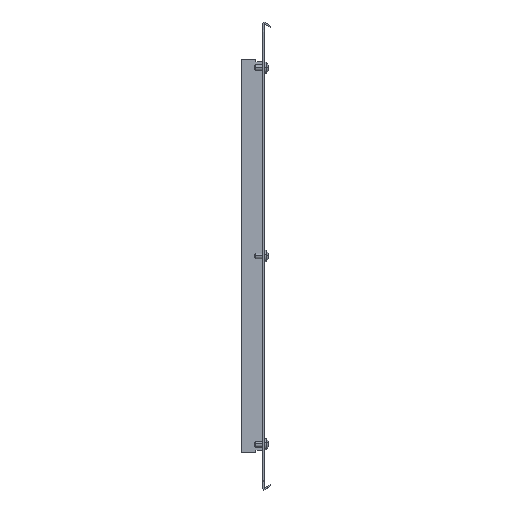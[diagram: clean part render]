
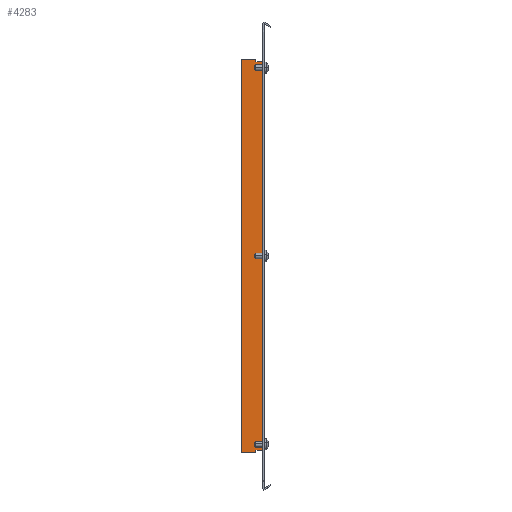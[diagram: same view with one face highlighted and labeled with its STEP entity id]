
A CAD part, left-side view. The second image highlights one B-rep face of the part: STEP entity #4283.
In plain terms, the highlighted planar face has unit normal (-1, 0, 0).
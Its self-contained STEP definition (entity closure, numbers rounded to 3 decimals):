
#107 = EDGE_LOOP ( 'NONE', ( #6543, #5303, #3175, #468, #5749, #1530, #10359, #10068, #7087, #811, #3003, #8647, #6614, #6595 ) ) ;
#241 = EDGE_CURVE ( 'NONE', #9529, #6462, #4749, .T. ) ;
#288 = LINE ( 'NONE', #10373, #8266 ) ;
#297 = EDGE_CURVE ( 'NONE', #11364, #2931, #288, .T. ) ;
#302 = CARTESIAN_POINT ( 'NONE',  ( 1.5, 5.75, -206.25 ) ) ;
#317 = CARTESIAN_POINT ( 'NONE',  ( 1.5, -1.5, 206.25 ) ) ;
#336 = CARTESIAN_POINT ( 'NONE',  ( 1.5, 5.75, -206.75 ) ) ;
#468 = ORIENTED_EDGE ( 'NONE', *, *, #8653, .F. ) ;
#794 = DIRECTION ( 'NONE',  ( 0., -1., 0. ) ) ;
#811 = ORIENTED_EDGE ( 'NONE', *, *, #1736, .F. ) ;
#847 = CARTESIAN_POINT ( 'NONE',  ( 1.5, -0.5, 206.25 ) ) ;
#1014 = VERTEX_POINT ( 'NONE', #317 ) ;
#1016 = CARTESIAN_POINT ( 'NONE',  ( 1.5, 5.75, 0. ) ) ;
#1060 = DIRECTION ( 'NONE',  ( 0., -1., 0. ) ) ;
#1103 = CARTESIAN_POINT ( 'NONE',  ( 1.5, 0., 0. ) ) ;
#1104 = VECTOR ( 'NONE', #5202, 1000. ) ;
#1180 = LINE ( 'NONE', #6752, #8379 ) ;
#1188 = VECTOR ( 'NONE', #4586, 1000. ) ;
#1530 = ORIENTED_EDGE ( 'NONE', *, *, #11203, .F. ) ;
#1535 = VECTOR ( 'NONE', #794, 1000. ) ;
#1583 = CARTESIAN_POINT ( 'NONE',  ( 1.5, -1.5, 0. ) ) ;
#1702 = DIRECTION ( 'NONE',  ( 0., 0., -1. ) ) ;
#1736 = EDGE_CURVE ( 'NONE', #9529, #4773, #4070, .T. ) ;
#1887 = DIRECTION ( 'NONE',  ( -1., 0., 0. ) ) ;
#1957 = LINE ( 'NONE', #4804, #5250 ) ;
#2006 = VECTOR ( 'NONE', #8854, 1000. ) ;
#2075 = DIRECTION ( 'NONE',  ( 0., 0., -1. ) ) ;
#2106 = DIRECTION ( 'NONE',  ( 0., 1., 0. ) ) ;
#2195 = VECTOR ( 'NONE', #2075, 1000. ) ;
#2501 = CARTESIAN_POINT ( 'NONE',  ( 1.5, 0., 209.25 ) ) ;
#2505 = LINE ( 'NONE', #11651, #5628 ) ;
#2587 = LINE ( 'NONE', #9823, #7887 ) ;
#2887 = FACE_OUTER_BOUND ( 'NONE', #107, .T. ) ;
#2922 = EDGE_CURVE ( 'NONE', #1014, #5862, #4597, .T. ) ;
#2931 = VERTEX_POINT ( 'NONE', #7948 ) ;
#3003 = ORIENTED_EDGE ( 'NONE', *, *, #241, .T. ) ;
#3175 = ORIENTED_EDGE ( 'NONE', *, *, #2922, .F. ) ;
#3342 = CARTESIAN_POINT ( 'NONE',  ( 1.5, 0., 206.25 ) ) ;
#3778 = CARTESIAN_POINT ( 'NONE',  ( 1.5, 0., -209.25 ) ) ;
#3886 = EDGE_CURVE ( 'NONE', #5456, #7497, #1957, .T. ) ;
#3910 = DIRECTION ( 'NONE',  ( 0., 0., 1. ) ) ;
#4070 = LINE ( 'NONE', #8711, #7278 ) ;
#4111 = AXIS2_PLACEMENT_3D ( 'NONE', #1103, #1887, #4678 ) ;
#4186 = LINE ( 'NONE', #9717, #4523 ) ;
#4283 = ADVANCED_FACE ( 'NONE', ( #2887 ), #4616, .T. ) ;
#4523 = VECTOR ( 'NONE', #6860, 1000. ) ;
#4586 = DIRECTION ( 'NONE',  ( 0., 0., -1. ) ) ;
#4597 = LINE ( 'NONE', #1583, #1104 ) ;
#4616 = PLANE ( 'NONE',  #4111 ) ;
#4678 = DIRECTION ( 'NONE',  ( 0., 0., 1. ) ) ;
#4749 = LINE ( 'NONE', #8539, #2195 ) ;
#4773 = VERTEX_POINT ( 'NONE', #7072 ) ;
#4804 = CARTESIAN_POINT ( 'NONE',  ( 1.5, -1.5, 206.25 ) ) ;
#4839 = CARTESIAN_POINT ( 'NONE',  ( 1.5, 21.5, -209.25 ) ) ;
#4969 = EDGE_CURVE ( 'NONE', #4773, #10565, #4186, .T. ) ;
#5202 = DIRECTION ( 'NONE',  ( 0., 0., -1. ) ) ;
#5250 = VECTOR ( 'NONE', #1060, 1000. ) ;
#5303 = ORIENTED_EDGE ( 'NONE', *, *, #5986, .T. ) ;
#5456 = VERTEX_POINT ( 'NONE', #9517 ) ;
#5628 = VECTOR ( 'NONE', #9856, 1000. ) ;
#5749 = ORIENTED_EDGE ( 'NONE', *, *, #3886, .F. ) ;
#5862 = VERTEX_POINT ( 'NONE', #8678 ) ;
#5906 = VECTOR ( 'NONE', #9685, 1000. ) ;
#5917 = VERTEX_POINT ( 'NONE', #8915 ) ;
#5986 = EDGE_CURVE ( 'NONE', #5917, #5862, #2505, .T. ) ;
#6072 = VERTEX_POINT ( 'NONE', #336 ) ;
#6122 = LINE ( 'NONE', #2501, #5906 ) ;
#6462 = VERTEX_POINT ( 'NONE', #4839 ) ;
#6482 = EDGE_CURVE ( 'NONE', #7626, #6462, #8460, .T. ) ;
#6543 = ORIENTED_EDGE ( 'NONE', *, *, #10434, .F. ) ;
#6595 = ORIENTED_EDGE ( 'NONE', *, *, #11350, .T. ) ;
#6614 = ORIENTED_EDGE ( 'NONE', *, *, #9947, .F. ) ;
#6744 = DIRECTION ( 'NONE',  ( 0., 0., 1. ) ) ;
#6752 = CARTESIAN_POINT ( 'NONE',  ( 1.5, 21.5, -206.25 ) ) ;
#6860 = DIRECTION ( 'NONE',  ( 0., 0., 1. ) ) ;
#7072 = CARTESIAN_POINT ( 'NONE',  ( 1.5, 21.5, 206.75 ) ) ;
#7087 = ORIENTED_EDGE ( 'NONE', *, *, #4969, .F. ) ;
#7278 = VECTOR ( 'NONE', #6744, 1000. ) ;
#7344 = VECTOR ( 'NONE', #2106, 1000. ) ;
#7497 = VERTEX_POINT ( 'NONE', #847 ) ;
#7626 = VERTEX_POINT ( 'NONE', #10159 ) ;
#7702 = CARTESIAN_POINT ( 'NONE',  ( 1.5, 21.5, 209.25 ) ) ;
#7777 = CARTESIAN_POINT ( 'NONE',  ( 1.5, 5.75, 206.75 ) ) ;
#7887 = VECTOR ( 'NONE', #1702, 1000. ) ;
#7948 = CARTESIAN_POINT ( 'NONE',  ( 1.5, 5.75, 209.25 ) ) ;
#8040 = LINE ( 'NONE', #3342, #1535 ) ;
#8222 = CARTESIAN_POINT ( 'NONE',  ( 1.5, 21.5, -206.75 ) ) ;
#8266 = VECTOR ( 'NONE', #3910, 1000. ) ;
#8379 = VECTOR ( 'NONE', #9371, 1000. ) ;
#8460 = LINE ( 'NONE', #3778, #7344 ) ;
#8539 = CARTESIAN_POINT ( 'NONE',  ( 1.5, 21.5, -206.75 ) ) ;
#8647 = ORIENTED_EDGE ( 'NONE', *, *, #6482, .F. ) ;
#8653 = EDGE_CURVE ( 'NONE', #7497, #1014, #8040, .T. ) ;
#8673 = LINE ( 'NONE', #8732, #2006 ) ;
#8678 = CARTESIAN_POINT ( 'NONE',  ( 1.5, -1.5, -206.25 ) ) ;
#8711 = CARTESIAN_POINT ( 'NONE',  ( 1.5, 21.5, 206.25 ) ) ;
#8732 = CARTESIAN_POINT ( 'NONE',  ( 1.5, 5.75, -206.75 ) ) ;
#8854 = DIRECTION ( 'NONE',  ( 0., 0., 1. ) ) ;
#8915 = CARTESIAN_POINT ( 'NONE',  ( 1.5, -0.5, -206.25 ) ) ;
#8998 = EDGE_CURVE ( 'NONE', #10565, #2931, #6122, .T. ) ;
#9027 = LINE ( 'NONE', #1016, #1188 ) ;
#9371 = DIRECTION ( 'NONE',  ( 0., 1., 0. ) ) ;
#9517 = CARTESIAN_POINT ( 'NONE',  ( 1.5, 5.75, 206.25 ) ) ;
#9529 = VERTEX_POINT ( 'NONE', #8222 ) ;
#9685 = DIRECTION ( 'NONE',  ( 0., -1., 0. ) ) ;
#9717 = CARTESIAN_POINT ( 'NONE',  ( 1.5, 21.5, 0. ) ) ;
#9823 = CARTESIAN_POINT ( 'NONE',  ( 1.5, 5.75, 206.75 ) ) ;
#9856 = DIRECTION ( 'NONE',  ( 0., -1., 0. ) ) ;
#9947 = EDGE_CURVE ( 'NONE', #6072, #7626, #9027, .T. ) ;
#10068 = ORIENTED_EDGE ( 'NONE', *, *, #8998, .F. ) ;
#10159 = CARTESIAN_POINT ( 'NONE',  ( 1.5, 5.75, -209.25 ) ) ;
#10161 = VERTEX_POINT ( 'NONE', #302 ) ;
#10359 = ORIENTED_EDGE ( 'NONE', *, *, #297, .T. ) ;
#10373 = CARTESIAN_POINT ( 'NONE',  ( 1.5, 5.75, 206.75 ) ) ;
#10434 = EDGE_CURVE ( 'NONE', #5917, #10161, #1180, .T. ) ;
#10565 = VERTEX_POINT ( 'NONE', #7702 ) ;
#11203 = EDGE_CURVE ( 'NONE', #11364, #5456, #2587, .T. ) ;
#11350 = EDGE_CURVE ( 'NONE', #6072, #10161, #8673, .T. ) ;
#11364 = VERTEX_POINT ( 'NONE', #7777 ) ;
#11651 = CARTESIAN_POINT ( 'NONE',  ( 1.5, -0.5, -206.25 ) ) ;
